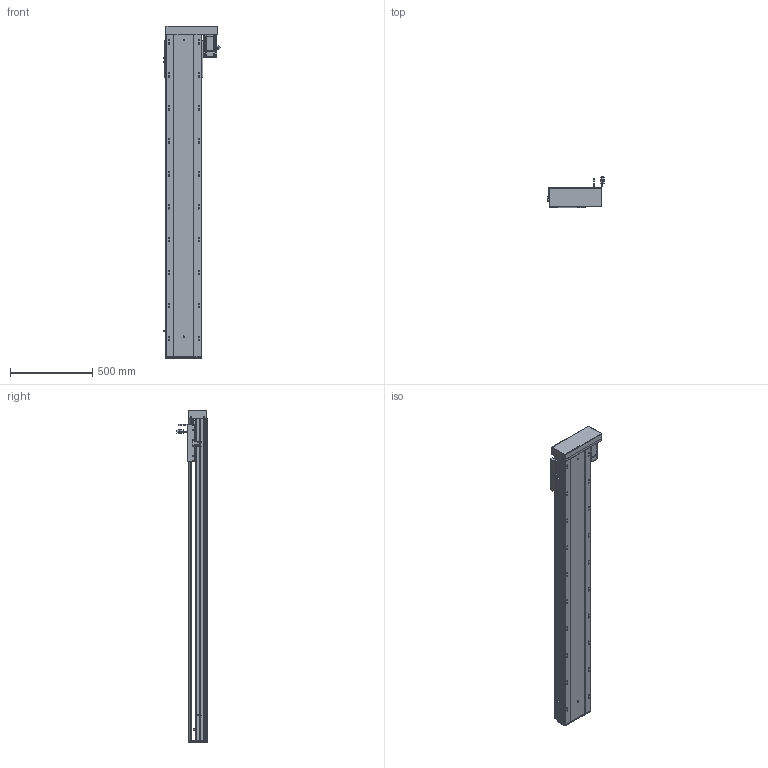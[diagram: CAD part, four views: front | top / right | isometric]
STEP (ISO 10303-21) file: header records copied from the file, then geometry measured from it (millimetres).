
FILE_DESCRIPTION (( 'STEP AP203' ), '1' );
FILE_NAME ('RY220-L2525-800-RK-邧嶺.SLDASM_1600.step', '2022-08-06T08:53:25', ( '' ), ( '' ), 'SwSTEP 2.0', 'SolidWorks 2016', '' );
FILE_SCHEMA (( 'CONFIG_CONTROL_DESIGN' ));
Length unit declared in the file: millimetre
Products named in the file (12): RY220蛌殏菁釱-800-邧嶺_1600; RY220-800-蛌殏奻裔啣_1600; RY220半封闭25-32螺母铝滑块; RY220酘衵殏萇儂欶; RY220-L2525-800-RK-邧嶺.SLDASM_1600; 滅袉蝶18-10; 滅袉蝶18-15; 怢湛750W_ECMA-CX0807ES; RY220綴裔啣; 覜茼ん672; RY220左右折电机安装板; RY220-俋离672覜茼んえ
Assembly tree (15 placements, depth 2):
  RY220-L2525-800-RK-邧嶺.SLDASM_1600
    RY220蛌殏菁釱-800-邧嶺_1600
    RY220-800-蛌殏奻裔啣_1600
    怢湛750W_ECMA-CX0807ES
    滅袉蝶18-10  x2
    RY220-俋离672覜茼んえ
    覜茼ん672  x3
    RY220綴裔啣
    RY220半封闭25-32螺母铝滑块
    滅袉蝶18-15  x2
    RY220左右折电机安装板
    RY220酘衵殏萇儂欶
Bounding box: 347.44 x 187.27 x 2014 mm (x, y, z)
Volume: 15621762.3 mm3; surface area: 4706755.9 mm2
Topology: 16 solids, 16 shells, 2297 faces, 6340 edges, 3985 vertices
Faces by surface type: cylinder 1057, plane 904, cone 266, bspline 44, sphere 16, torus 10
Entity records: 75779 total; most frequent: CARTESIAN_POINT 21803, ORIENTED_EDGE 11176, DIRECTION 10612, EDGE_CURVE 5588, AXIS2_PLACEMENT_3D 3759, VERTEX_POINT 3641, VECTOR 3094, LINE 3094
